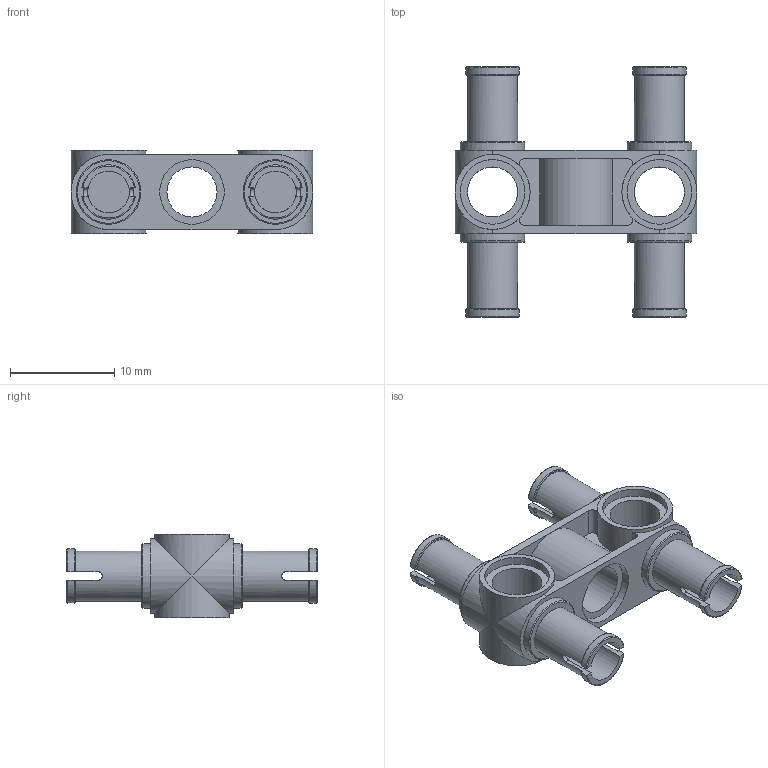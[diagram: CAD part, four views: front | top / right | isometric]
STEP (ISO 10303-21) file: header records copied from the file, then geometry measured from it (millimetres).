
FILE_DESCRIPTION(/* description */ ('Unknown'),/* implementation_level */ '2;1');
FILE_NAME(/* name */ 'ClGray_4225033_AVV',/* time_stamp */ '2025-07-21T23:54:33+02:00',/* author */ ('Unknown'),/* organization */ ('Unknown'),/* preprocessor_version */ 'ST-DEVELOPER v19.4',/* originating_system */ 'Solid Edge',/* authorisation */ 'Unknown');
FILE_SCHEMA (('AUTOMOTIVE_DESIGN {1 0 10303 214 3 1 1}'));
Length unit declared in the file: millimetre
Products named in the file (1): ClGray_4225033_AVV
Bounding box: 23.2 x 24 x 8 mm (x, y, z)
Volume: 923.4 mm3; surface area: 2157.4 mm2
Topology: 1 solids, 1 shells, 143 faces, 369 edges, 242 vertices
Faces by surface type: plane 68, cylinder 55, torus 20
Full cylindrical faces by diameter (mm): 4 x4, 4.8 x7, 6.2 x10, 7.2 x4
Entity records: 4256 total; most frequent: CARTESIAN_POINT 866, DIRECTION 708, ORIENTED_EDGE 660, EDGE_CURVE 330, AXIS2_PLACEMENT_3D 282, VERTEX_POINT 232, EDGE_LOOP 192, FACE_BOUND 192
